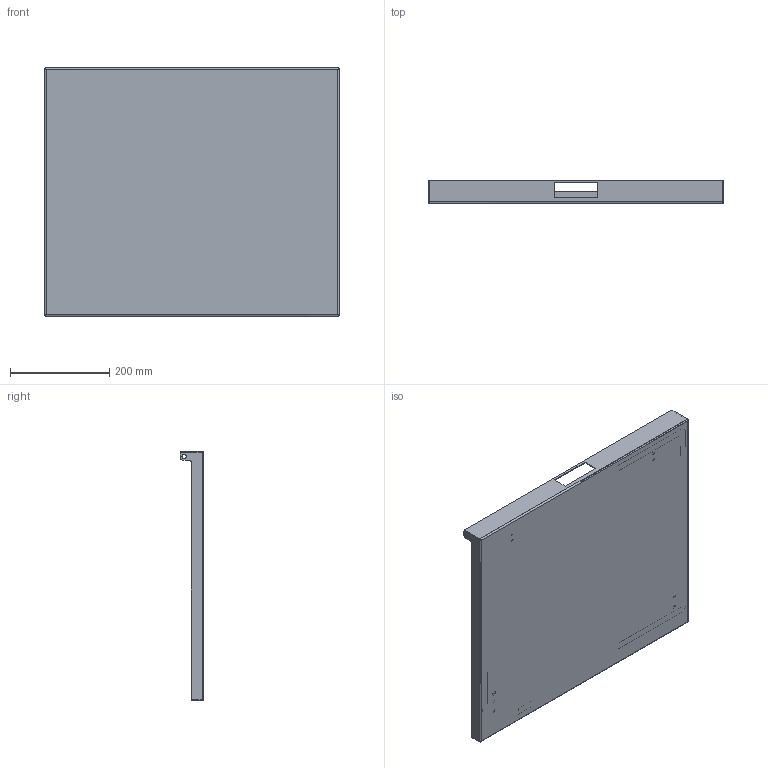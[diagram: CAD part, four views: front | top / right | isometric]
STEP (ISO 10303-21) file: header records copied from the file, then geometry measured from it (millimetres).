
FILE_DESCRIPTION (( 'STEP AP203' ), '1' );
FILE_NAME ('MPLS062_V1.STEP', '2018-03-28T08:25:06', ( '' ), ( '' ), 'SwSTEP 2.0', 'SolidWorks 2017', '' );
FILE_SCHEMA (( 'CONFIG_CONTROL_DESIGN' ));
Length unit declared in the file: millimetre
Products named in the file (2): MPLS062_V1
Bounding box: 593 x 47 x 500 mm (x, y, z)
Volume: 847400.1 mm3; surface area: 794190.3 mm2
Topology: 13 solids, 13 shells, 201 faces, 424 edges, 266 vertices
Faces by surface type: cylinder 88, plane 83, cone 18, bspline 12
Entity records: 5995 total; most frequent: CARTESIAN_POINT 1429, DIRECTION 972, ORIENTED_EDGE 848, EDGE_CURVE 424, AXIS2_PLACEMENT_3D 377, VERTEX_POINT 266, EDGE_LOOP 230, LINE 218
